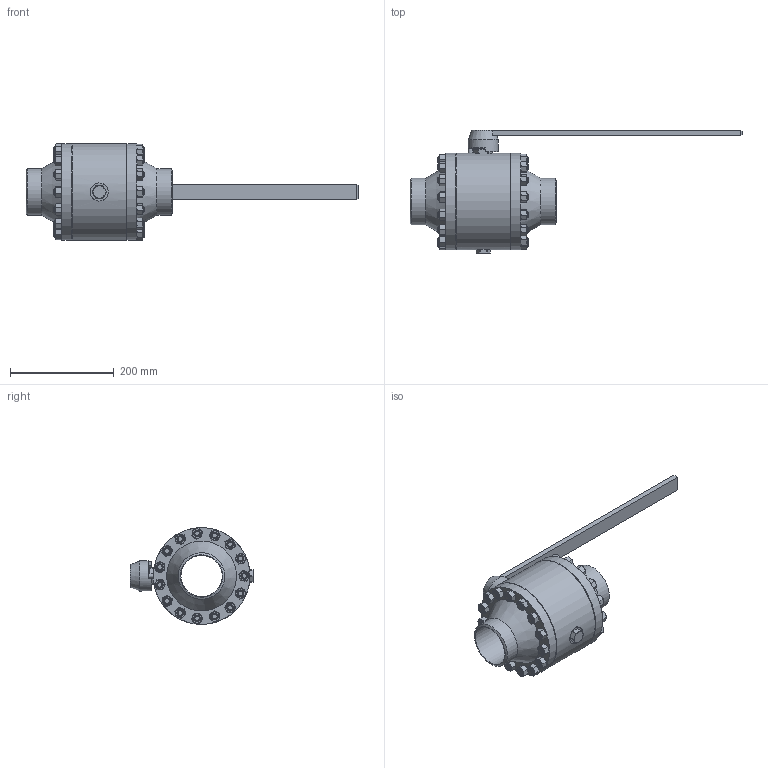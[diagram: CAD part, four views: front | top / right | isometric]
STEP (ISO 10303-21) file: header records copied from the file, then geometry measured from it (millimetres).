
FILE_DESCRIPTION(('STEP AP203'), '1');
FILE_NAME('ZARDP 080.016.40.P.stp', '2013-12-06T11:44:20', ('Ñèçîâ À.Í.'), ('ÎÎÎ "ÈÊ Ýíåðïðåä-ßðäîñ"'), 'ASCON STEP Converter 1.3', 'Kompas 3D', '');
FILE_SCHEMA(('CONFIG_CONTROL_DESIGN','SUPPORT_RESOURCE_SCHEMA'));
Length unit declared in the file: millimetre
Products named in the file (1): 285
Bounding box: 641.5 x 238 x 187 mm (x, y, z)
Volume: 3032275.8 mm3; surface area: 449840.6 mm2
Topology: 1 solids, 37 shells, 843 faces, 1745 edges, 1104 vertices
Faces by surface type: plane 455, cone 214, cylinder 173, torus 1
Full cylindrical faces by diameter (mm): 6.647 x1, 8 x3, 8.5 x1, 10.4 x1, 12 x90, 13 x30, 16 x1, 23.4 x1, 27 x4, 27.1 x1, 29 x1, 35 x1, 37 x2, 58 x1, 80 x2, 90 x2, 130.4 x2, 140 x3, 187 x3
Entity records: 40479 total; most frequent: CARTESIAN_POINT 22737, DIRECTION 3665, ORIENTED_EDGE 3490, EDGE_CURVE 1745, AXIS2_PLACEMENT_3D 1499, VERTEX_POINT 1104, EDGE_LOOP 993, ADVANCED_FACE 843
